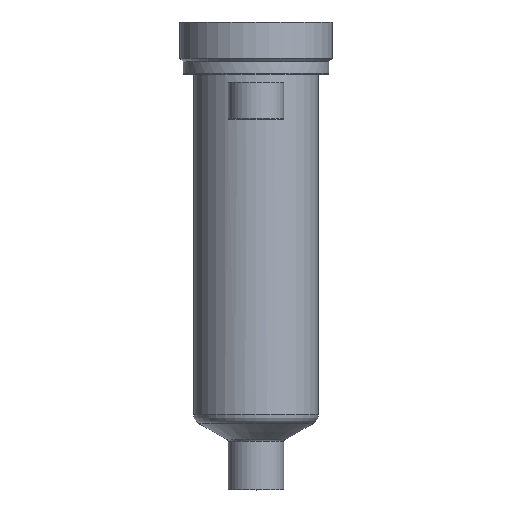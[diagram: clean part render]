
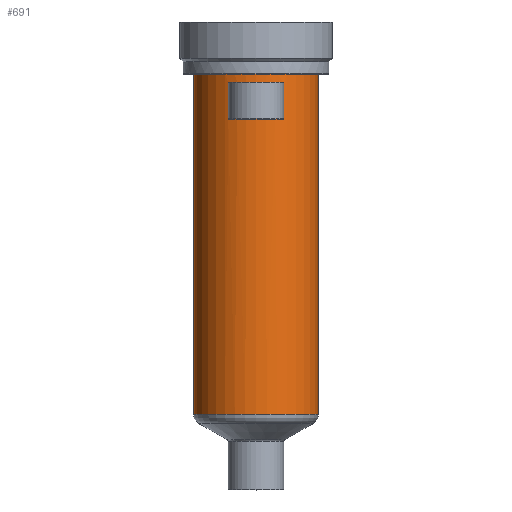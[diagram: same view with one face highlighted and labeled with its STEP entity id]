
A CAD part, top view. The second image highlights one B-rep face of the part: STEP entity #691.
In plain terms, the highlighted cylindrical face has radius 18 mm (diameter 36 mm), a partial arc.
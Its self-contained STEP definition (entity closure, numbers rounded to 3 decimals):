
#187=DIRECTION('',(0.,-1.,0.));
#188=VECTOR('',#187,98.206);
#189=CARTESIAN_POINT('',(18.,0.,0.));
#190=LINE('',#189,#188);
#191=CARTESIAN_POINT('',(0.,-98.206,0.));
#192=DIRECTION('',(0.,1.,0.));
#193=DIRECTION('',(-1.,0.,0.));
#194=AXIS2_PLACEMENT_3D('',#191,#192,#193);
#196=DIRECTION('',(0.,1.,0.));
#197=VECTOR('',#196,98.206);
#198=CARTESIAN_POINT('',(-18.,-98.206,0.));
#199=LINE('',#198,#197);
#200=CARTESIAN_POINT('',(0.,0.,0.));
#201=DIRECTION('',(0.,1.,0.));
#202=DIRECTION('',(-1.,0.,0.));
#203=AXIS2_PLACEMENT_3D('',#200,#201,#202);
#281=DIRECTION('',(0.,-1.,0.));
#282=VECTOR('',#281,10.5);
#283=CARTESIAN_POINT('',(-8.,-2.5,16.125));
#284=LINE('',#283,#282);
#285=CARTESIAN_POINT('',(0.,-13.,0.));
#286=DIRECTION('',(0.,1.,0.));
#287=DIRECTION('',(-0.444,0.,0.896));
#288=AXIS2_PLACEMENT_3D('',#285,#286,#287);
#311=CARTESIAN_POINT('',(0.,-2.5,0.));
#312=DIRECTION('',(0.,-1.,0.));
#313=DIRECTION('',(0.444,0.,0.896));
#314=AXIS2_PLACEMENT_3D('',#311,#312,#313);
#329=DIRECTION('',(0.,-1.,0.));
#330=VECTOR('',#329,10.5);
#331=CARTESIAN_POINT('',(8.,-2.5,16.125));
#332=LINE('',#331,#330);
#390=CARTESIAN_POINT('',(-18.,0.,0.));
#391=CARTESIAN_POINT('',(18.,0.,0.));
#392=VERTEX_POINT('',#390);
#393=VERTEX_POINT('',#391);
#402=CARTESIAN_POINT('',(-8.,-2.5,16.125));
#403=VERTEX_POINT('',#402);
#404=CARTESIAN_POINT('',(8.,-2.5,16.125));
#405=VERTEX_POINT('',#404);
#438=CARTESIAN_POINT('',(18.,-98.206,0.));
#439=VERTEX_POINT('',#438);
#448=CARTESIAN_POINT('',(-18.,-98.206,0.));
#449=VERTEX_POINT('',#448);
#450=CARTESIAN_POINT('',(-8.,-13.,16.125));
#451=CARTESIAN_POINT('',(8.,-13.,16.125));
#452=VERTEX_POINT('',#450);
#453=VERTEX_POINT('',#451);
#669=CARTESIAN_POINT('',(0.,16.4,0.));
#670=DIRECTION('',(0.,-1.,0.));
#671=DIRECTION('',(-1.,0.,0.));
#672=AXIS2_PLACEMENT_3D('',#669,#670,#671);
#673=CYLINDRICAL_SURFACE('',#672,18.);
#674=ORIENTED_EDGE('',*,*,#663,.T.);
#676=ORIENTED_EDGE('',*,*,#675,.F.);
#677=ORIENTED_EDGE('',*,*,#659,.T.);
#678=ORIENTED_EDGE('',*,*,#649,.T.);
#679=EDGE_LOOP('',(#674,#676,#677,#678));
#680=FACE_OUTER_BOUND('',#679,.F.);
#682=ORIENTED_EDGE('',*,*,#681,.T.);
#684=ORIENTED_EDGE('',*,*,#683,.T.);
#686=ORIENTED_EDGE('',*,*,#685,.F.);
#688=ORIENTED_EDGE('',*,*,#687,.T.);
#689=EDGE_LOOP('',(#682,#684,#686,#688));
#690=FACE_BOUND('',#689,.F.);
#691=ADVANCED_FACE('',(#680,#690),#673,.T.);
#195=CIRCLE('',#194,18.);
#204=CIRCLE('',#203,18.);
#289=CIRCLE('',#288,18.);
#315=CIRCLE('',#314,18.);
#649=EDGE_CURVE('',#392,#393,#204,.T.);
#659=EDGE_CURVE('',#449,#392,#199,.T.);
#663=EDGE_CURVE('',#393,#439,#190,.T.);
#675=EDGE_CURVE('',#449,#439,#195,.T.);
#681=EDGE_CURVE('',#403,#452,#284,.T.);
#683=EDGE_CURVE('',#452,#453,#289,.T.);
#685=EDGE_CURVE('',#405,#453,#332,.T.);
#687=EDGE_CURVE('',#405,#403,#315,.T.);
